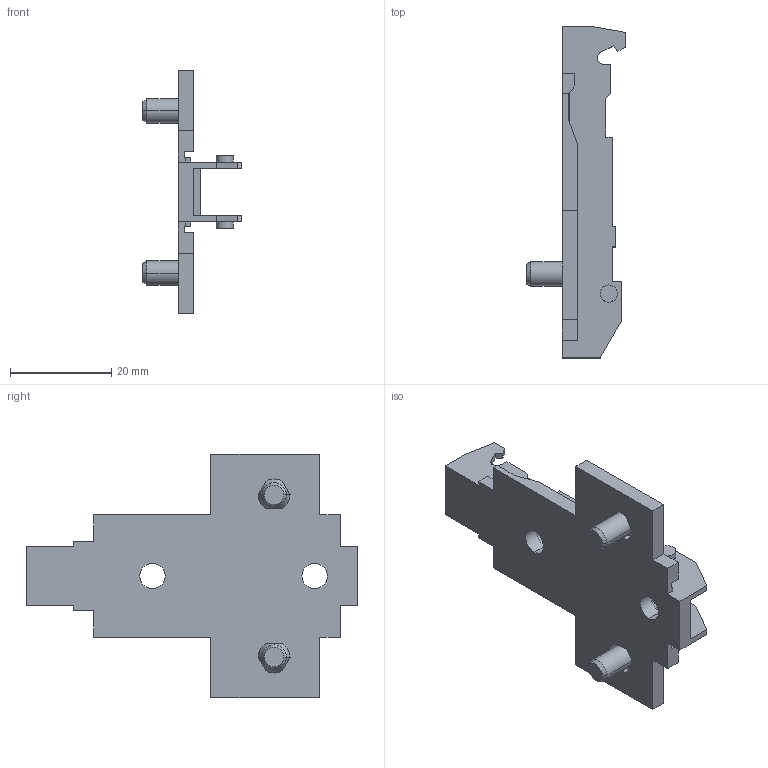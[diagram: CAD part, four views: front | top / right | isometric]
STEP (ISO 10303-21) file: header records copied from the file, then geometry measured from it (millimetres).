
FILE_DESCRIPTION (( 'STEP AP214' ), '1' );
FILE_NAME ('1D_Kreuzmontageplatte 28_32_Euro_vorgestellt 10_2.step', '2010-11-18T10:19:48', ( 'grass' ), ( '' ), 'SwSTEP 2.0', 'SolidWorks 2010', '' );
FILE_SCHEMA (( 'AUTOMOTIVE_DESIGN' ));
Length unit declared in the file: millimetre
Products named in the file (1): 1D_Kreuzmontageplatte 28_32_Euro_vorgestellt 10_2
Bounding box: 19.5 x 65.5 x 48 mm (x, y, z)
Volume: 6650.9 mm3; surface area: 7057.5 mm2
Topology: 1 solids, 1 shells, 138 faces, 390 edges, 254 vertices
Faces by surface type: plane 92, cylinder 34, cone 12
Entity records: 4550 total; most frequent: CARTESIAN_POINT 873, ORIENTED_EDGE 780, DIRECTION 730, EDGE_CURVE 390, LINE 292, VECTOR 292, VERTEX_POINT 254, AXIS2_PLACEMENT_3D 219
